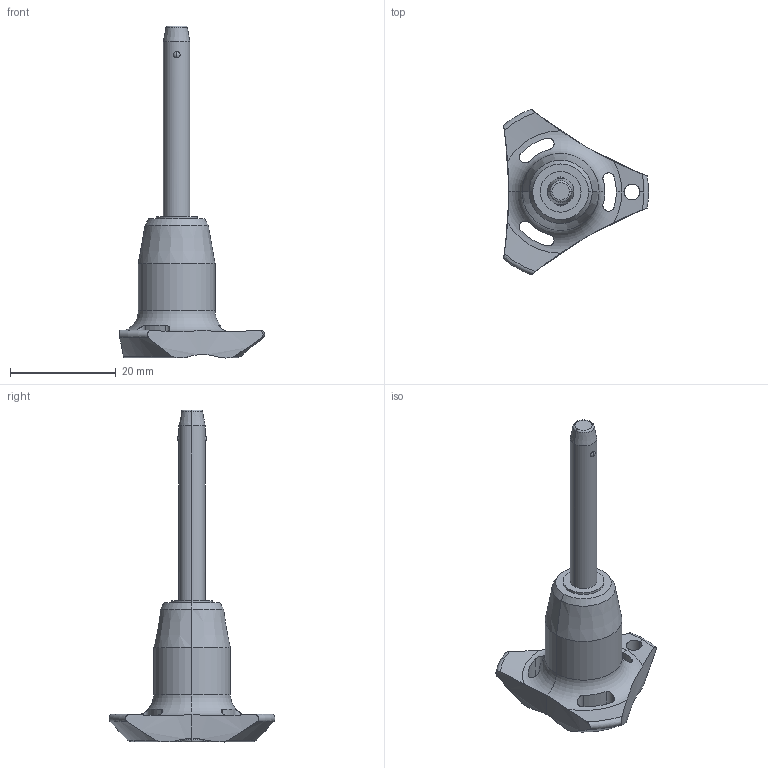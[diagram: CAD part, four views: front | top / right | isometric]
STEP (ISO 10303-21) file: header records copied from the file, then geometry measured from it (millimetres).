
FILE_DESCRIPTION (( 'STEP AP203' ), '1' );
FILE_NAME ('QR1704.M05-030-S.step', '2025-11-12T09:07:39', ( '' ), ( '' ), 'SwSTEP 2.0', 'SolidWorks 2019', '' );
FILE_SCHEMA (( 'CONFIG_CONTROL_DESIGN' ));
Length unit declared in the file: millimetre
Products named in the file (1): QR1704.M05-030-S
Bounding box: 27.4 x 31.31 x 62.7 mm (x, y, z)
Volume: 5457.1 mm3; surface area: 2979.5 mm2
Topology: 1 solids, 1 shells, 66 faces, 181 edges, 115 vertices
Faces by surface type: cylinder 30, cone 14, torus 12, sphere 6, plane 4
Entity records: 2693 total; most frequent: CARTESIAN_POINT 981, ORIENTED_EDGE 362, DIRECTION 332, EDGE_CURVE 181, AXIS2_PLACEMENT_3D 148, VERTEX_POINT 115, CIRCLE 81, EDGE_LOOP 72
